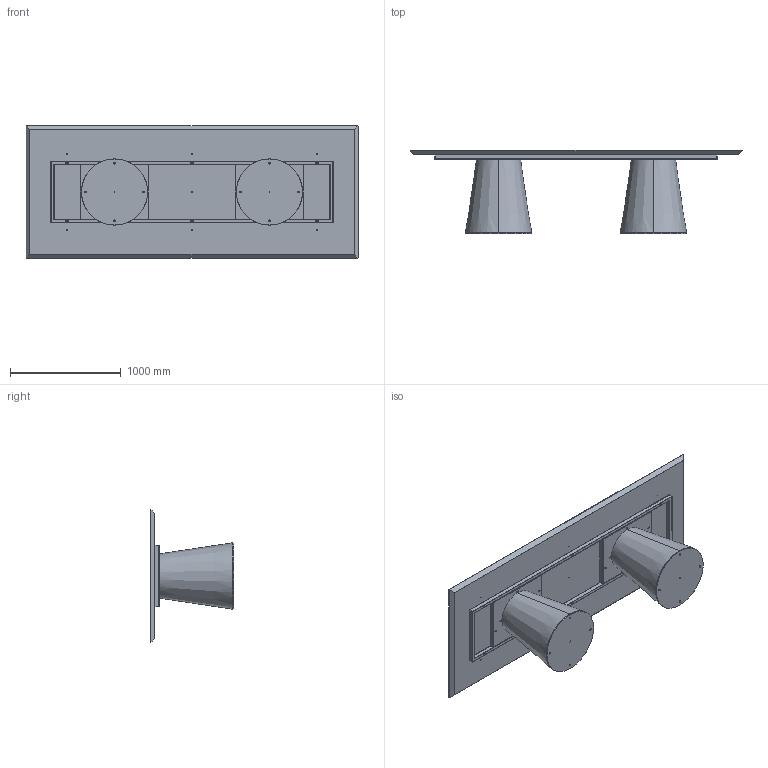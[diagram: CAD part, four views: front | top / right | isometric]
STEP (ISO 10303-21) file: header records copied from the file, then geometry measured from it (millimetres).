
FILE_DESCRIPTION (( 'STEP AP203' ), '1' );
FILE_NAME ('TO24W_Teo_300x120_Wood Rectangular.STEP', '2024-08-02T09:35:07', ( '' ), ( '' ), 'SwSTEP 2.0', 'SolidWorks 2022', '' );
FILE_SCHEMA (( 'CONFIG_CONTROL_DESIGN' ));
Length unit declared in the file: millimetre
Products named in the file (12): BASE TED LEGNO CON ZAVORRA; M8xXXmm_hex_M8X20mm; TEO000000PIA-00-TEO PIASTRA DI BASE IN METALLO GREZZO; COLLO TELAIO UNIVERSALE TTAV03 CON FERRAMENTA_MTG TOP LEGNO-MARMO-KING; TTAV03-06-TELAIO UNIVERSALE X TAVOLI 300-340cm; TTAV03_02-06-VASSOIO IRRIGIDIMENTO TELAIO UNIVERSALE RETTANGOLARE; rondella M8_8X24; TEO0000-00-TEO BASE LEGNO IMPIALLACCIATA LEVIGATO PRONTA X VERNICE; W2XCMXX-00-Piani Rettangolari in legno_3000 x 1200; TTAV03_01-06-RING TUBO TELAIO UNIVERSALE X TAVOLI 300-340cm; TO24W_Teo_300x120_Wood Rectangular; M8xXXmm_M8x55mm
Assembly tree (26 placements, depth 4):
  TO24W_Teo_300x120_Wood Rectangular
    BASE TED LEGNO CON ZAVORRA  x2
      TEO000000PIA-00-TEO PIASTRA DI BASE IN METALLO GREZZO
      TEO0000-00-TEO BASE LEGNO IMPIALLACCIATA LEVIGATO PRONTA X VERNICE
      M8xXXmm_hex_M8X20mm
    COLLO TELAIO UNIVERSALE TTAV03 CON FERRAMENTA_MTG TOP LEGNO-MARMO-KING
      TTAV03-06-TELAIO UNIVERSALE X TAVOLI 300-340cm
        TTAV03_01-06-RING TUBO TELAIO UNIVERSALE X TAVOLI 300-340cm
        TTAV03_02-06-VASSOIO IRRIGIDIMENTO TELAIO UNIVERSALE RETTANGOLARE  x2
      rondella M8_8X24  x6
      M8xXXmm_M8x55mm  x6
    W2XCMXX-00-Piani Rettangolari in legno_3000 x 1200
Bounding box: 3000 x 751.19 x 1200 mm (x, y, z)
Volume: 192215480.6 mm3; surface area: 16987842.3 mm2
Topology: 28 solids, 28 shells, 1132 faces, 2602 edges, 1491 vertices
Faces by surface type: plane 494, cylinder 334, cone 208, torus 88, sphere 8
Entity records: 15467 total; most frequent: DIRECTION 2517, CARTESIAN_POINT 2428, ORIENTED_EDGE 2228, EDGE_CURVE 1114, AXIS2_PLACEMENT_3D 937, VERTEX_POINT 682, VECTOR 643, LINE 643
